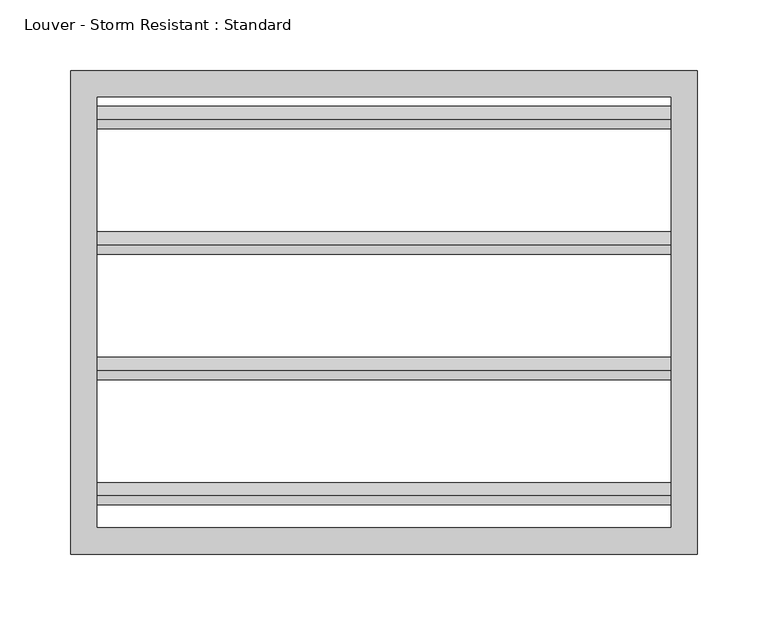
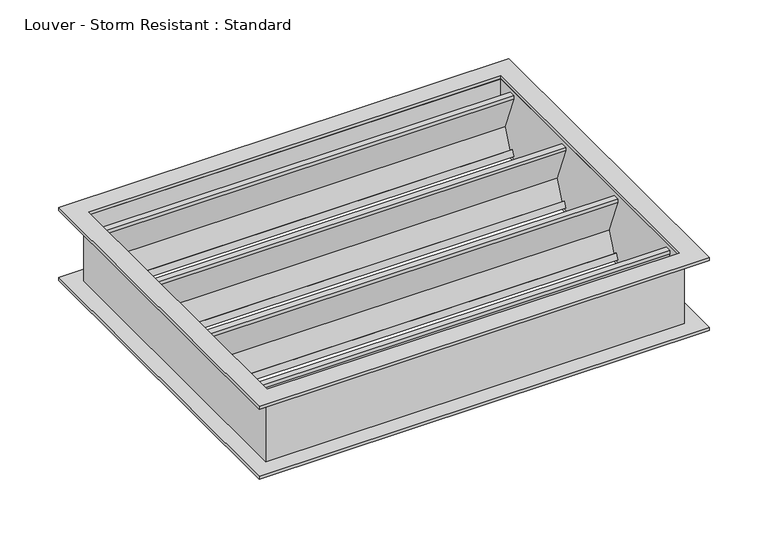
"""IFC4 building model written with IfcOpenShell, lengths in millimetres: air terminal geometry, Louver - Storm Resistant : Standard."""

from ifc_helpers import new_model, si_unit, frame, origin, place, context, project, spatial, polyline, outline, extrude, source, transform, mapped, element, save


def louver_storm_resistant_standard_6191d6d0(model_context):
    return source(origin(), model_context, "Body", "SweptSolid", [
        extrude(outline(polyline([(47.625, -7.3025), (47.625, -8.255), (42.06875, -8.255), (42.06875, -10.63625), (57.15, -48.5775), (47.5672197, -70.8025), (41.3327803, -70.8025), (43.5206765, -64.7913045), (44.1927089, -65.2656803), (42.4085925, -70.1675), (47.0438746, -70.1675), (56.1789184, -48.5767932), (41.275, -10.8875407), (41.275, -7.3025), (47.625, -7.3025)])), frame((-203.2, 0.0, 0.0), z_axis=(1.0, 0.0, 0.0), x_axis=(0.0, 1.0, 0.0)), (0.0, 0.0, 1.0), 406.4),
        extrude(outline(polyline([(-41.275, -7.3025), (-41.275, -8.255), (-46.83125, -8.255), (-46.83125, -10.63625), (-31.75, -48.5775), (-41.3327803, -70.8025), (-47.5672197, -70.8025), (-45.3793235, -64.7913045), (-44.7072911, -65.2656803), (-46.4914075, -70.1675), (-41.8561254, -70.1675), (-32.7210816, -48.5767932), (-47.625, -10.8875407), (-47.625, -7.3025), (-41.275, -7.3025)])), frame((-203.2, 0.0, 0.0), z_axis=(1.0, 0.0, 0.0), x_axis=(0.0, 1.0, 0.0)), (0.0, 0.0, 1.0), 406.4),
        extrude(outline(polyline([(136.525, -7.3025), (136.525, -8.255), (130.96875, -8.255), (130.96875, -10.63625), (146.05, -48.5775), (136.4672197, -70.8025), (130.2327803, -70.8025), (132.4206765, -64.7913045), (133.0927089, -65.2656803), (131.3085925, -70.1675), (135.9438746, -70.1675), (145.0789184, -48.5767932), (130.175, -10.8875407), (130.175, -7.3025), (136.525, -7.3025)])), frame((-203.2, 0.0, 0.0), z_axis=(1.0, 0.0, 0.0), x_axis=(0.0, 1.0, 0.0)), (0.0, 0.0, 1.0), 406.4),
        extrude(outline(polyline([(-130.175, -7.3025), (-130.175, -8.255), (-135.73125, -8.255), (-135.73125, -10.63625), (-120.65, -48.5775), (-130.2327803, -70.8025), (-136.4672197, -70.8025), (-134.2793235, -64.7913045), (-133.6072911, -65.2656803), (-135.3914075, -70.1675), (-130.7561254, -70.1675), (-121.6210816, -48.5767932), (-136.525, -10.8875407), (-136.525, -7.3025), (-130.175, -7.3025)])), frame((-203.2, 0.0, 0.0), z_axis=(1.0, 0.0, 0.0), x_axis=(0.0, 1.0, 0.0)), (0.0, 0.0, 1.0), 406.4),
        extrude(outline(polyline([(206.375, 155.575), (206.375, -155.575), (-206.375, -155.575), (-206.375, 155.575), (206.375, 155.575)]), holes=[polyline([(203.2, 152.4), (-203.2, 152.4), (-203.2, -152.4), (203.2, -152.4), (203.2, 152.4)])]), frame((0.0, 0.0, -73.025), z_axis=(0.0, 0.0, 1.0), x_axis=(1.0, 0.0, 0.0)), (0.0, 0.0, 1.0), 69.85),
        extrude(outline(polyline([(222.25, 171.45), (222.25, -171.45), (-222.25, -171.45), (-222.25, 171.45), (222.25, 171.45)]), holes=[polyline([(203.2, 152.4), (-203.2, 152.4), (-203.2, -152.4), (203.2, -152.4), (203.2, 152.4)])]), frame((0.0, 0.0, -76.2), z_axis=(0.0, 0.0, 1.0), x_axis=(1.0, 0.0, 0.0)), (0.0, 0.0, 1.0), 3.175),
        extrude(outline(polyline([(222.25, 171.45), (222.25, -171.45), (-222.25, -171.45), (-222.25, 171.45), (222.25, 171.45)]), holes=[polyline([(203.2, 152.4), (-203.2, 152.4), (-203.2, -152.4), (203.2, -152.4), (203.2, 152.4)])]), frame((0.0, 0.0, -3.175), z_axis=(0.0, 0.0, 1.0), x_axis=(1.0, 0.0, 0.0)), (0.0, 0.0, 1.0), 3.175),
    ])


if __name__ == "__main__":
    model = new_model("IFC4")
    model_context = context("Model", 3, world=origin())
    ifc_project = project(units=[si_unit("LENGTHUNIT", "METRE", prefix="MILLI")], contexts=[model_context])
    site = spatial("IfcSite", under=ifc_project)
    building = spatial("IfcBuilding", under=site)
    placement = place(None, origin())
    louver_storm_resistant_standard_shape = louver_storm_resistant_standard_6191d6d0(model_context)
    element("IfcAirTerminal", 1, ObjectType="Louver - Storm Resistant : Standard", at=placement, inside=building, context=model_context, shape_type="MappedRepresentation", body=[
        mapped(louver_storm_resistant_standard_shape, transform((0.0, 0.0, 0.0), x_axis=(1.0, 0.0, 0.0), y_axis=(0.0, 1.0, 0.0), z_axis=(0.0, 0.0, 1.0))),
    ])
    save(model, "model.ifc")
